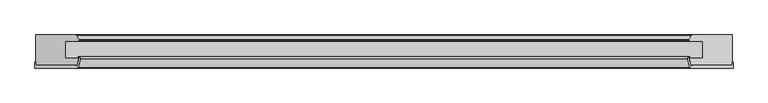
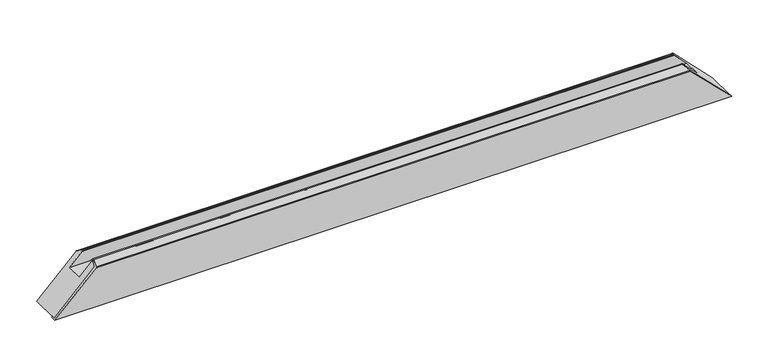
"""IFC4 building model written with IfcOpenShell, lengths in millimetres: proxy geometry, Weiku - Montante - Caixilho fixo : Weiku - Montante - Caixilho fixo."""

import ifcopenshell
import ifcopenshell.guid

model = None  # the IFC model being written
_history = None  # IfcOwnerHistory: only IFC2X3 demands one
_inside = {}  # id of a spatial element -> (the spatial element, [elements in it])
_under = {}  # id of a project, library or spatial element -> (it, [spatial elements below it])
_declared = {}  # id of a project -> (the project, [libraries it declares])
_typed = {}  # id of a type object -> (the type object, [elements of that type])
_made_of = {}  # id of a material, layer set ... -> (it, [elements and type objects made of it])


def new_model(schema):
    """Start an empty IFC model of exactly this schema.

    Asked for "IFC4X3", IfcOpenShell would pick the latest addendum, in which some entities
    have other attributes; the version numbers below select the first issue.
    IFC2X3 requires an IfcOwnerHistory on every rooted entity: one is made here for all.
    """
    global model, _history
    if schema == "IFC4X3":
        model = ifcopenshell.file(schema_version=(4, 3, 0, 0))
    else:
        model = ifcopenshell.file(schema=schema)
    _inside.clear()
    _under.clear()
    _declared.clear()
    _typed.clear()
    _made_of.clear()
    _history = None
    if model.schema == "IFC2X3":
        org = make("IfcOrganization", Name="unknown")
        user = make(
            "IfcPersonAndOrganization",
            ThePerson=make("IfcPerson", FamilyName="unknown"),
            TheOrganization=org,
        )
        app = make(
            "IfcApplication",
            ApplicationDeveloper=org,
            Version="unknown",
            ApplicationFullName="unknown",
            ApplicationIdentifier="unknown",
        )
        _history = make(
            "IfcOwnerHistory",
            OwningUser=user,
            OwningApplication=app,
            ChangeAction="ADDED",
            CreationDate=0,
        )
    return model


def make(cls, **values):
    """One entity of the class cls with the attributes given. An attribute that is None is left unset."""
    return model.create_entity(
        cls, **{name: value for name, value in values.items() if value is not None}
    )


def rooted(cls, **values):
    """An entity with a GlobalId (a new one), such as an element, a storey or a relation."""
    return make(cls, GlobalId=ifcopenshell.guid.new(), OwnerHistory=_history, **values)


def si_unit(unit_type, name, prefix=None):
    """IfcSIUnit, for example si_unit("LENGTHUNIT", "METRE", prefix="MILLI")."""
    return make("IfcSIUnit", UnitType=unit_type, Prefix=prefix, Name=name)


def assignment(units):
    """IfcUnitAssignment: the units of a project."""
    return None if units is None else make("IfcUnitAssignment", Units=units)


def point(xyz):
    """IfcCartesianPoint."""
    return None if xyz is None else make("IfcCartesianPoint", Coordinates=xyz)


def direction(xyz):
    """IfcDirection."""
    return None if xyz is None else make("IfcDirection", DirectionRatios=xyz)


def frame(location, z_axis=None, x_axis=None):
    """IfcAxis2Placement3D, a coordinate frame: its origin and axes. An axis left out is left unset."""
    return make(
        "IfcAxis2Placement3D",
        Location=point(location),
        Axis=direction(z_axis),
        RefDirection=direction(x_axis),
    )


def origin():
    """The frame at (0, 0, 0) with its axes left unset."""
    return frame((0.0, 0.0, 0.0))


def place(relative_to, where):
    """IfcLocalPlacement: puts the frame where relative to a parent placement (None: the world)."""
    return make(
        "IfcLocalPlacement", PlacementRelTo=relative_to, RelativePlacement=where
    )


def context(
    kind, dimensions, precision=None, world=None, true_north=None, identifier=None
):
    """IfcGeometricRepresentationContext, for example the 3D "Model" context."""
    return make(
        "IfcGeometricRepresentationContext",
        ContextIdentifier=identifier,
        ContextType=kind,
        CoordinateSpaceDimension=dimensions,
        Precision=precision,
        WorldCoordinateSystem=world,
        TrueNorth=true_north,
    )


def project(units=None, contexts=None):
    """IfcProject with its units and contexts."""
    return rooted(
        "IfcProject",
        Name="project",
        RepresentationContexts=contexts,
        UnitsInContext=assignment(units),
    )


def spatial(cls, under=None, at=None, **own):
    """A site, building, storey or space (cls), placed at a placement, below another one or the project."""
    s = rooted(cls, ObjectPlacement=at, **own)
    if under is not None:
        _under.setdefault(under.id(), (under, []))[1].append(s)
    return s


def polyline(points):
    """IfcPolyline through the points."""
    return make("IfcPolyline", Points=[point(p) for p in points])


def ellipse_curve(where, semi_axis1, semi_axis2):
    """IfcEllipse in the frame where."""
    return make(
        "IfcEllipse", Position=where, SemiAxis1=semi_axis1, SemiAxis2=semi_axis2
    )


def shape(context_of_items, identifier, shape_type, items):
    """IfcShapeRepresentation: the items that make up one representation, for example the "Body"."""
    return make(
        "IfcShapeRepresentation",
        ContextOfItems=context_of_items,
        RepresentationIdentifier=identifier,
        RepresentationType=shape_type,
        Items=items,
    )


def source(mapping_origin, context_of_items, identifier, shape_type, items):
    """IfcRepresentationMap: a shape defined once, which mapped items show again and again."""
    return make(
        "IfcRepresentationMap",
        MappingOrigin=mapping_origin,
        MappedRepresentation=shape(context_of_items, identifier, shape_type, items),
    )


def transform(
    local_origin,
    x_axis=None,
    y_axis=None,
    z_axis=None,
    scale=None,
    scale2=None,
    scale3=None,
    uniform=True,
):
    """IfcCartesianTransformationOperator3D, or its non-uniform kind. x_axis, y_axis, z_axis: its Axis1, 2, 3."""
    if uniform:
        return make(
            "IfcCartesianTransformationOperator3D",
            Axis1=direction(x_axis),
            Axis2=direction(y_axis),
            LocalOrigin=point(local_origin),
            Scale=scale,
            Axis3=direction(z_axis),
        )
    return make(
        "IfcCartesianTransformationOperator3DnonUniform",
        Axis1=direction(x_axis),
        Axis2=direction(y_axis),
        LocalOrigin=point(local_origin),
        Scale=scale,
        Axis3=direction(z_axis),
        Scale2=scale2,
        Scale3=scale3,
    )


def mapped(mapping_source, mapping_target):
    """IfcMappedItem: shows the shape of a source again, moved by a transform."""
    return make(
        "IfcMappedItem", MappingSource=mapping_source, MappingTarget=mapping_target
    )


def made_of(thing, what):
    """Note that an element or type object is made of a material, layer set ...; save() writes the relation."""
    if what is not None:
        _made_of.setdefault(what.id(), (what, []))[1].append(thing)
    return thing


def element(
    cls,
    number,
    at=None,
    inside=None,
    cuts=None,
    type_object=None,
    material=None,
    context=None,
    identifier="Body",
    shape_type=None,
    held_by="IfcProductDefinitionShape",
    body=None,
    shapes=None,
    **own,
):
    """One element of the class cls, such as IfcWall. Its Tag is "e" and its number.

    at: its placement. inside: the storey or other place that contains it. cuts: it is an
    opening in that element (IfcRelVoidsElement). A single representation is given by context,
    identifier, shape_type and body (its items); several are given by shapes. held_by: the class
    of the entity that holds the representations. save() writes the other relations.
    """
    e = rooted(cls, Tag="e%d" % number, ObjectPlacement=at, **own)
    if body is not None:
        shapes = [shape(context, identifier, shape_type, body)]
    if shapes is not None:
        e.Representation = make(held_by, Representations=shapes)
    if inside is not None:
        _inside.setdefault(inside.id(), (inside, []))[1].append(e)
    if cuts is not None:
        rooted(
            "IfcRelVoidsElement", RelatingBuildingElement=cuts, RelatedOpeningElement=e
        )
    if type_object is not None:
        _typed.setdefault(type_object.id(), (type_object, []))[1].append(e)
    return made_of(e, material)


def aggregate(whole, parts):
    """IfcRelAggregates: a whole, such as a stair, and the parts it consists of."""
    return rooted("IfcRelAggregates", RelatingObject=whole, RelatedObjects=parts)


def save(model, path):
    """Write the relations noted so far, then the file.

    IfcRelAggregates (storeys below a building ...), IfcRelContainedInSpatialStructure (elements
    in a storey), IfcRelDefinesByType, IfcRelAssociatesMaterial and IfcRelDeclares: one each for
    every whole, place, type object, material and project.
    """
    for whole, parts in _under.values():
        aggregate(whole, parts)
    for where, things in _inside.values():
        rooted(
            "IfcRelContainedInSpatialStructure",
            RelatedElements=things,
            RelatingStructure=where,
        )
    for kind, things in _typed.values():
        rooted("IfcRelDefinesByType", RelatedObjects=things, RelatingType=kind)
    for what, things in _made_of.values():
        rooted("IfcRelAssociatesMaterial", RelatedObjects=things, RelatingMaterial=what)
    for by, libraries in _declared.values():
        rooted("IfcRelDeclares", RelatingContext=by, RelatedDefinitions=libraries)
    model.write(path)


def plane_surface(at):
    """IfcPlane: the flat surface through the origin of the frame at, square to its z axis."""
    return make("IfcPlane", Position=at)


def cylinder_surface(at, radius):
    """IfcCylindricalSurface: all points at the distance radius from the z axis of the frame at."""
    return make("IfcCylindricalSurface", Position=at, Radius=radius)


def revolved_surface(curve, axis_point, axis_direction):
    """IfcSurfaceOfRevolution: the curve turned about the line through axis_point along axis_direction."""
    return make(
        "IfcSurfaceOfRevolution",
        SweptCurve=make("IfcArbitraryOpenProfileDef", ProfileType="CURVE", Curve=curve),
        AxisPosition=make("IfcAxis1Placement", Location=point(axis_point), Axis=direction(axis_direction)),
    )


def advanced_brep(points, edges, surfaces, faces):
    """IfcAdvancedBrep: a solid bounded by faces that lie on surfaces and meet in shared edges.

    An edge is (start, end): straight between two places in points (the first is 0);
    or (start, end, curve); or (start, end, curve, False) where it runs against its curve.
    A face is (place in surfaces, loops), or (place, loops, False) where it looks against
    its surface's normal. A loop lists edges by number (the first is 1), with a minus sign
    where the edge is run from its end to its start. The first loop is the outer one.
    """
    corners = [point(p) for p in points]
    vertices = [make("IfcVertexPoint", VertexGeometry=c) for c in corners]
    made = []
    for start, end, *more in edges:
        made.append(
            make(
                "IfcEdgeCurve",
                EdgeStart=vertices[start],
                EdgeEnd=vertices[end],
                EdgeGeometry=more[0] if more else make("IfcPolyline", Points=[corners[start], corners[end]]),
                SameSense=more[1] if len(more) > 1 else True,
            )
        )
    hull = []
    for where, loops, *sense in faces:
        bounds = []
        for j, loop in enumerate(loops):
            ring = [make("IfcOrientedEdge", EdgeElement=made[abs(k) - 1], Orientation=k > 0) for k in loop]
            bounds.append(
                make(
                    "IfcFaceOuterBound" if j == 0 else "IfcFaceBound",
                    Bound=make("IfcEdgeLoop", EdgeList=ring),
                    Orientation=True,
                )
            )
        hull.append(make("IfcAdvancedFace", Bounds=bounds, FaceSurface=surfaces[where], SameSense=sense[0] if sense else True))
    return make("IfcAdvancedBrep", Outer=make("IfcClosedShell", CfsFaces=hull))


def generic_models_0ecda6d8(model_context):
    return source(origin(), model_context, "Body", "AdvancedBrep", [
        advanced_brep(
        [(537.6, -41.9137905, -1.0), (536.6, -41.9137905, 0.0), (536.6, -47.0, 0.0), (474.6978094, -47.0, 61.9021906), (471.8000319, -44.7764571, 64.7999681), (469.718227, -37.0070552, 66.881773), (470.4909676, -36.0, 66.1090324), (470.4909676, -34.0, 66.1090324), (467.7863753, -37.5246933, 68.8136247), (471.198474, -50.258819, 65.401526), (472.1643998, -51.0, 64.4356002), (537.6, -51.0, -1.0), (-537.6, -51.0, -1.0), (-472.1643998, -51.0, 64.4356002), (-471.198474, -50.258819, 65.401526), (-467.7863753, -37.5246933, 68.8136247), (-470.4909676, -34.0, 66.1090324), (-470.4909676, -36.0, 66.1090324), (-469.718227, -37.0070552, 66.881773), (-471.8000319, -44.7764571, 64.7999681), (-474.6978094, -47.0, 61.9021906), (-536.6, -47.0, 0.0), (-536.6, -41.9137905, 0.0), (-537.6, -41.9137905, -1.0)],
        [
            (0, 1),
            (1, 2),
            (2, 3),
            (3, 4, ellipse_curve(frame((474.6978094, -44.0, 61.9021906), z_axis=(-0.7071067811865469, 0.0, -0.7071067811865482), x_axis=(0.707106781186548, 0.0, -0.7071067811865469)), 4.2426407, 3.0)),
            (4, 5),
            (5, 6, ellipse_curve(frame((470.4909676, -36.8, 66.1090324), z_axis=(-0.7071067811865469, 0.0, -0.7071067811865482), x_axis=(0.707106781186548, 0.0, -0.7071067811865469)), 1.1313708, 0.8)),
            (6, 7),
            (7, 8, ellipse_curve(frame((470.4909676, -36.8, 66.1090324), z_axis=(0.7071067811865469, 0.0, 0.7071067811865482), x_axis=(-0.707106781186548, 0.0, 0.7071067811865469)), 3.959798, 2.8)),
            (8, 9),
            (9, 10, ellipse_curve(frame((472.1643998, -50.0, 64.4356002), z_axis=(0.7071067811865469, 0.0, 0.7071067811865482), x_axis=(-0.707106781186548, 0.0, 0.7071067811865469)), 1.4142136, 1.0)),
            (10, 11),
            (11, 0),
            (12, 13),
            (13, 14, ellipse_curve(frame((-472.1643998, -50.0, 64.4356002), z_axis=(-0.7071067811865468, 0.0, 0.7071067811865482), x_axis=(-0.7071067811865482, 0.0, -0.7071067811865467)), 1.4142136, 1.0)),
            (14, 15),
            (15, 16, ellipse_curve(frame((-470.4909676, -36.8, 66.1090324), z_axis=(-0.7071067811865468, 0.0, 0.7071067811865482), x_axis=(-0.7071067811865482, 0.0, -0.7071067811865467)), 3.959798, 2.8)),
            (16, 17),
            (17, 18, ellipse_curve(frame((-470.4909676, -36.8, 66.1090324), z_axis=(0.7071067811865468, 0.0, -0.7071067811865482), x_axis=(0.7071067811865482, 0.0, 0.7071067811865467)), 1.1313708, 0.8)),
            (18, 19),
            (19, 20, ellipse_curve(frame((-474.6978094, -44.0, 61.9021906), z_axis=(0.7071067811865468, 0.0, -0.7071067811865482), x_axis=(0.7071067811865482, 0.0, 0.7071067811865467)), 4.2426407, 3.0)),
            (20, 21),
            (21, 22),
            (22, 23),
            (23, 12),
            (11, 12),
            (23, 0),
            (22, 1),
            (6, 17),
            (16, 7),
            (8, 15),
            (14, 9),
            (13, 10),
            (21, 2),
            (20, 3),
            (19, 4),
            (18, 5),
        ],
        [
            plane_surface(frame((466.6, 15.0, 70.0), z_axis=(0.7071067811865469, 0.0, 0.7071067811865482), x_axis=(0.0, -1.0, 0.0))),
            plane_surface(frame((-606.6, 15.0, -70.0), z_axis=(-0.7071067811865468, 0.0, 0.7071067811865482), x_axis=(0.0, -1.0, 0.0))),
            plane_surface(frame((-539.4284271, -51.0, -1.0), z_axis=(0.0, 0.0, -1.0), x_axis=(1.0, 0.0, 0.0))),
            plane_surface(frame((-539.4284271, -41.9137905, -1.0), z_axis=(0.0, 1.0, 0.0), x_axis=(1.0, 0.0, 0.0))),
            plane_surface(frame((-539.4284271, -36.0, 66.1090324), z_axis=(0.0, 0.0, -1.0), x_axis=(1.0, 0.0, 0.0))),
            plane_surface(frame((-539.4284271, -37.5246933, 68.8136247), z_axis=(0.0, -0.25881904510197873, 0.9659258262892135), x_axis=(1.0, 0.0, 0.0))),
            cylinder_surface(frame((-539.4284271, -50.0, 64.4356002), z_axis=(-1.0, 0.0, 0.0), x_axis=(0.0, 1.0, 0.0)), 1.0),
            plane_surface(frame((-539.4284271, -51.0, 64.4356002), z_axis=(0.0, -1.0, 0.0), x_axis=(1.0, 0.0, 0.0))),
            plane_surface(frame((-539.4284271, -41.9137905, 0.0), z_axis=(0.0, 0.0, 1.0), x_axis=(1.0, 0.0, 0.0))),
            plane_surface(frame((-539.4284271, -47.0, 0.0), z_axis=(0.0, 1.0, 0.0), x_axis=(1.0, 0.0, 0.0))),
            revolved_surface(polyline([(477.697809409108, -47.0, 61.9021906), (-477.697809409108, -47.0, 61.9021906)]), (-539.4284271, -44.0, 61.9021906), (1.0, 0.0, 0.0)),
            plane_surface(frame((-539.4284271, -44.7764571, 64.7999681), z_axis=(0.0, 0.2588190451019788, -0.9659258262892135), x_axis=(1.0, 0.0, 0.0))),
            revolved_surface(polyline([(471.2909675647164, -37.599999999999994, 66.1090324), (-471.2909675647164, -37.599999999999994, 66.1090324)]), (-539.4284271, -36.8, 66.1090324), (1.0, 0.0, 0.0)),
            cylinder_surface(frame((-539.4284271, -36.8, 66.1090324), z_axis=(-1.0, 0.0, 0.0), x_axis=(0.0, -1.0, 0.0)), 2.8),
        ],
        [
            (0, [[1, 2, 3, 4, 5, 6, 7, 8, 9, 10, 11, 12]]),
            (1, [[13, 14, 15, 16, 17, 18, 19, 20, 21, 22, 23, 24]]),
            (2, [[25, -24, 26, -12]]),
            (3, [[-26, -23, 27, -1]]),
            (4, [[28, -17, 29, -7]]),
            (5, [[30, -15, 31, -9]]),
            (6, [[-31, -14, 32, -10]]),
            (7, [[-32, -13, -25, -11]]),
            (8, [[-27, -22, 33, -2]]),
            (9, [[-33, -21, 34, -3]]),
            (10, [[-34, -20, 35, -4]]),
            (11, [[-35, -19, 36, -5]]),
            (12, [[-36, -18, -28, -6]]),
            (13, [[-29, -16, -30, -8]]),
        ],
    ),
        advanced_brep(
        [(-469.718227, -37.0070552, 66.881773), (-470.4909676, -36.0, 66.1090324), (-490.6, -36.0, 46.0), (-490.6, -9.5, 46.0), (-470.3, -9.5, 66.3), (-469.6, -8.8, 67.0), (-469.6, -7.4641016, 67.0), (-469.8679492, -6.4641016, 66.7320508), (-473.3113249, -0.5, 63.2886751), (-474.1773503, 0.0, 62.4226497), (-536.6, 0.0, 0.0), (-536.6, -47.0, 0.0), (-474.6978094, -47.0, 61.9021906), (-471.8000319, -44.7764571, 64.7999681), (471.8000319, -44.7764571, 64.7999681), (474.6978094, -47.0, 61.9021906), (536.6, -47.0, 0.0), (536.6, 0.0, 0.0), (474.1773503, 0.0, 62.4226497), (473.3113249, -0.5, 63.2886751), (469.8679492, -6.4641016, 66.7320508), (469.6, -7.4641016, 67.0), (469.6, -8.8, 67.0), (470.3, -9.5, 66.3), (490.6, -9.5, 46.0), (490.6, -36.0, 46.0), (470.4909676, -36.0, 66.1090324), (469.718227, -37.0070552, 66.881773)],
        [
            (0, 1, ellipse_curve(frame((-470.4909676, -36.8, 66.1090324), z_axis=(-0.7071067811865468, 0.0, 0.7071067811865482), x_axis=(-0.7071067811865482, 0.0, -0.7071067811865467)), 1.1313708, 0.8)),
            (1, 2),
            (2, 3),
            (3, 4),
            (4, 5, ellipse_curve(frame((-470.3, -8.8, 66.3), z_axis=(-0.7071067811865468, 0.0, 0.7071067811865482), x_axis=(-0.7071067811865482, 0.0, -0.7071067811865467)), 0.9899495, 0.7)),
            (5, 6),
            (6, 7, ellipse_curve(frame((-471.6, -7.4641016, 65.0), z_axis=(-0.7071067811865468, 0.0, 0.7071067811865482), x_axis=(-0.7071067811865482, 0.0, -0.7071067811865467)), 2.8284271, 2.0)),
            (7, 8),
            (8, 9, ellipse_curve(frame((-474.1773503, -1.0, 62.4226497), z_axis=(-0.7071067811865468, 0.0, 0.7071067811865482), x_axis=(-0.7071067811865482, 0.0, -0.7071067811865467)), 1.4142136, 1.0)),
            (9, 10),
            (10, 11),
            (11, 12),
            (12, 13, ellipse_curve(frame((-474.6978094, -44.0, 61.9021906), z_axis=(-0.7071067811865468, 0.0, 0.7071067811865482), x_axis=(-0.7071067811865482, 0.0, -0.7071067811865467)), 4.2426407, 3.0)),
            (13, 0),
            (14, 15, ellipse_curve(frame((474.6978094, -44.0, 61.9021906), z_axis=(0.7071067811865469, 0.0, 0.7071067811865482), x_axis=(-0.707106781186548, 0.0, 0.7071067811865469)), 4.2426407, 3.0)),
            (15, 16),
            (16, 17),
            (17, 18),
            (18, 19, ellipse_curve(frame((474.1773503, -1.0, 62.4226497), z_axis=(0.7071067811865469, 0.0, 0.7071067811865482), x_axis=(-0.707106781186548, 0.0, 0.7071067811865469)), 1.4142136, 1.0)),
            (19, 20),
            (20, 21, ellipse_curve(frame((471.6, -7.4641016, 65.0), z_axis=(0.7071067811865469, 0.0, 0.7071067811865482), x_axis=(-0.707106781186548, 0.0, 0.7071067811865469)), 2.8284271, 2.0)),
            (21, 22),
            (22, 23, ellipse_curve(frame((470.3, -8.8, 66.3), z_axis=(0.7071067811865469, 0.0, 0.7071067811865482), x_axis=(-0.707106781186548, 0.0, 0.7071067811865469)), 0.9899495, 0.7)),
            (23, 24),
            (24, 25),
            (25, 26),
            (26, 27, ellipse_curve(frame((470.4909676, -36.8, 66.1090324), z_axis=(0.7071067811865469, 0.0, 0.7071067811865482), x_axis=(-0.707106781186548, 0.0, 0.7071067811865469)), 1.1313708, 0.8)),
            (27, 14),
            (13, 14),
            (27, 0),
            (12, 15),
            (11, 16),
            (10, 17),
            (9, 18),
            (2, 25),
            (24, 3),
            (1, 26),
            (8, 19),
            (7, 20),
            (6, 21),
            (5, 22),
            (4, 23),
        ],
        [
            plane_surface(frame((-606.6, 15.0, -70.0), z_axis=(-0.7071067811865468, 0.0, 0.7071067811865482), x_axis=(0.0, -1.0, 0.0))),
            plane_surface(frame((466.6, 15.0, 70.0), z_axis=(0.7071067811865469, 0.0, 0.7071067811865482), x_axis=(0.0, -1.0, 0.0))),
            plane_surface(frame((-536.6, -37.0070552, 66.881773), z_axis=(0.0, -0.2588190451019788, 0.9659258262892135), x_axis=(1.0, 0.0, 0.0))),
            cylinder_surface(frame((-536.6, -44.0, 61.9021906), z_axis=(-1.0, 0.0, 0.0), x_axis=(0.0, -1.0, 0.0)), 3.0),
            plane_surface(frame((-536.6, -47.0, 61.9021906), z_axis=(0.0, -1.0, 0.0), x_axis=(1.0, 0.0, 0.0))),
            plane_surface(frame((-536.6, -47.0, 0.0), z_axis=(0.0, 0.0, -1.0), x_axis=(1.0, 0.0, 0.0))),
            plane_surface(frame((-536.6, 0.0, 0.0), z_axis=(0.0, 1.0, 0.0), x_axis=(1.0, 0.0, 0.0))),
            plane_surface(frame((-536.6, -9.5, 46.0), z_axis=(0.0, 0.0, 1.0), x_axis=(1.0, 0.0, 0.0))),
            plane_surface(frame((-536.6, -36.0, 46.0), z_axis=(0.0, 1.0, 0.0), x_axis=(1.0, 0.0, 0.0))),
            cylinder_surface(frame((-536.6, -36.8, 66.1090324), z_axis=(-1.0, 0.0, 0.0), x_axis=(0.0, -1.0, 0.0)), 0.8),
            cylinder_surface(frame((-536.6, -1.0, 62.4226497), z_axis=(-1.0, 0.0, 0.0), x_axis=(0.0, -1.0, 0.0)), 1.0),
            plane_surface(frame((-536.6, -0.5, 63.2886751), z_axis=(0.0, 0.49999999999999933, 0.866025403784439), x_axis=(1.0, 0.0, 0.0))),
            cylinder_surface(frame((-536.6, -7.4641016, 65.0), z_axis=(-1.0, 0.0, 0.0), x_axis=(0.0, -1.0, 0.0)), 2.0),
            plane_surface(frame((-536.6, -7.4641016, 67.0), z_axis=(0.0, 0.0, 1.0), x_axis=(1.0, 0.0, 0.0))),
            cylinder_surface(frame((-536.6, -8.8, 66.3), z_axis=(-1.0, 0.0, 0.0), x_axis=(0.0, -1.0, 0.0)), 0.7),
            plane_surface(frame((-536.6, -9.5, 66.3), z_axis=(0.0, -1.0, 0.0), x_axis=(1.0, 0.0, 0.0))),
        ],
        [
            (0, [[1, 2, 3, 4, 5, 6, 7, 8, 9, 10, 11, 12, 13, 14]]),
            (1, [[15, 16, 17, 18, 19, 20, 21, 22, 23, 24, 25, 26, 27, 28]]),
            (2, [[29, -28, 30, -14]]),
            (3, [[31, -15, -29, -13]]),
            (4, [[-16, -31, -12, 32]]),
            (5, [[-11, 33, -17, -32]]),
            (6, [[-10, 34, -18, -33]]),
            (7, [[35, -25, 36, -3]]),
            (8, [[37, -26, -35, -2]]),
            (9, [[-30, -27, -37, -1]]),
            (10, [[38, -19, -34, -9]]),
            (11, [[39, -20, -38, -8]]),
            (12, [[40, -21, -39, -7]]),
            (13, [[41, -22, -40, -6]]),
            (14, [[42, -23, -41, -5]]),
            (15, [[-36, -24, -42, -4]]),
        ],
    ),
    ])


if __name__ == "__main__":
    model = new_model("IFC4")
    model_context = context("Model", 3, world=origin())
    ifc_project = project(units=[si_unit("LENGTHUNIT", "METRE", prefix="MILLI")], contexts=[model_context])
    site = spatial("IfcSite", under=ifc_project)
    building = spatial("IfcBuilding", under=site)
    placement = place(None, origin())
    generic_models_shape = generic_models_0ecda6d8(model_context)
    element("IfcBuildingElementProxy", 1, Name="Weiku - Montante - Caixilho fixo : Weiku - Montante - Caixilho fixo", ObjectType="Weiku - Montante - Caixilho fixo : Weiku - Montante - Caixilho fixo", at=placement, inside=building, context=model_context, shape_type="MappedRepresentation", body=[
        mapped(generic_models_shape, transform((0.0, 0.0, 0.0), x_axis=(1.0, 0.0, 0.0), y_axis=(0.0, 1.0, 0.0), z_axis=(0.0, 0.0, 1.0))),
    ])
    save(model, "model.ifc")
